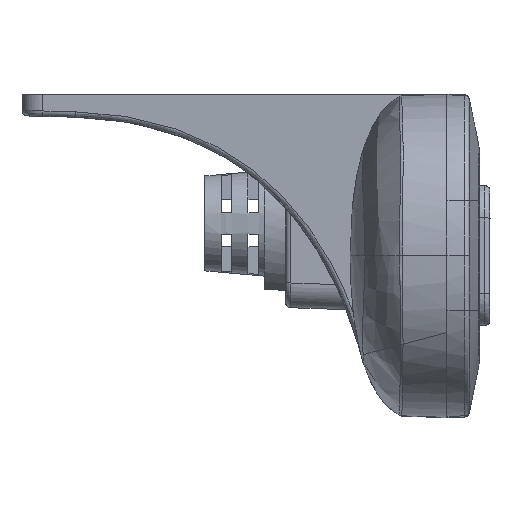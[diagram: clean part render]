
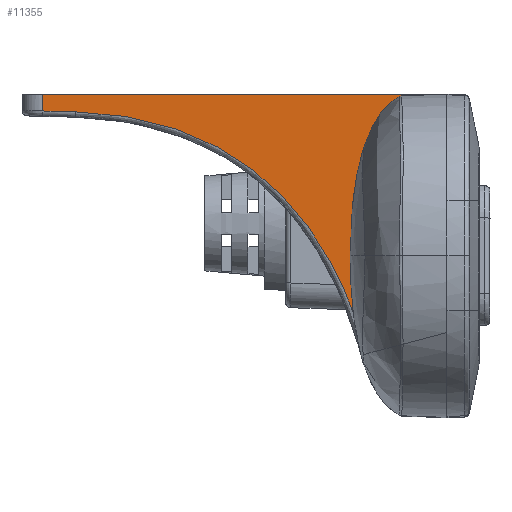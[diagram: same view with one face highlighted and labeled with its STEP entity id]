
A CAD part, left-side view. The second image highlights one B-rep face of the part: STEP entity #11355.
In plain terms, the highlighted planar face has unit normal (-0.999, 0.035, 0).
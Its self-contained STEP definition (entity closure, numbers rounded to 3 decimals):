
#181=(
BOUNDED_CURVE()
B_SPLINE_CURVE(3,(#20575,#20576,#20577,#20578),.UNSPECIFIED.,.F.,.F.)
B_SPLINE_CURVE_WITH_KNOTS((4,4),(0.,1.),.UNSPECIFIED.)
CURVE()
GEOMETRIC_REPRESENTATION_ITEM()
RATIONAL_B_SPLINE_CURVE((1.,0.983,0.983,1.))
REPRESENTATION_ITEM('')
);
#930=LINE('',#19807,#1398);
#937=LINE('',#19884,#1405);
#957=LINE('',#20513,#1425);
#1398=VECTOR('',#13663,1000.);
#1405=VECTOR('',#13674,1000.);
#1425=VECTOR('',#13720,1000.);
#1665=PLANE('',#12079);
#3578=ORIENTED_EDGE('',*,*,#5411,.F.);
#3579=ORIENTED_EDGE('',*,*,#5397,.F.);
#3580=ORIENTED_EDGE('',*,*,#5463,.F.);
#3581=ORIENTED_EDGE('',*,*,#5464,.T.);
#3582=ORIENTED_EDGE('',*,*,#5465,.T.);
#3583=ORIENTED_EDGE('',*,*,#5466,.T.);
#3584=ORIENTED_EDGE('',*,*,#5467,.T.);
#3585=ORIENTED_EDGE('',*,*,#5468,.T.);
#5397=EDGE_CURVE('',#6473,#6434,#930,.T.);
#5411=EDGE_CURVE('',#6434,#6486,#937,.T.);
#5463=EDGE_CURVE('',#6517,#6473,#957,.T.);
#5464=EDGE_CURVE('',#6517,#6518,#7137,.T.);
#5465=EDGE_CURVE('',#6518,#6519,#7138,.T.);
#5466=EDGE_CURVE('',#6519,#6520,#7139,.T.);
#5467=EDGE_CURVE('',#6520,#6521,#7140,.T.);
#5468=EDGE_CURVE('',#6521,#6486,#181,.T.);
#6434=VERTEX_POINT('',#19417);
#6473=VERTEX_POINT('',#19806);
#6486=VERTEX_POINT('',#19885);
#6517=VERTEX_POINT('',#20512);
#6518=VERTEX_POINT('',#20519);
#6519=VERTEX_POINT('',#20545);
#6520=VERTEX_POINT('',#20550);
#6521=VERTEX_POINT('',#20574);
#7137=B_SPLINE_CURVE_WITH_KNOTS('',3,(#20515,#20516,#20517,#20518),
 .UNSPECIFIED.,.F.,.F.,(4,4),(0.,1.),.UNSPECIFIED.);
#7138=B_SPLINE_CURVE_WITH_KNOTS('',3,(#20520,#20521,#20522,#20523,#20524,
#20525,#20526,#20527,#20528,#20529,#20530,#20531,#20532,#20533,#20534,#20535,
#20536,#20537,#20538,#20539,#20540,#20541,#20542,#20543,#20544),
 .UNSPECIFIED.,.F.,.F.,(4,1,1,1,1,1,1,1,1,1,1,1,1,1,1,1,1,1,1,1,1,1,4),
(0.,0.063,0.094,0.125,0.156,0.188,0.25,0.313,0.375,0.438,0.5,0.563,
0.625,0.688,0.719,0.75,0.781,0.813,0.844,0.875,0.906,0.938,1.),
 .UNSPECIFIED.);
#7139=B_SPLINE_CURVE_WITH_KNOTS('',3,(#20546,#20547,#20548,#20549),
 .UNSPECIFIED.,.F.,.F.,(4,4),(0.,1.),.UNSPECIFIED.);
#7140=B_SPLINE_CURVE_WITH_KNOTS('',3,(#20551,#20552,#20553,#20554,#20555,
#20556,#20557,#20558,#20559,#20560,#20561,#20562,#20563,#20564,#20565,#20566,
#20567,#20568,#20569,#20570,#20571,#20572,#20573),.UNSPECIFIED.,.F.,.F.,
(4,1,1,1,1,1,1,1,1,1,1,1,1,1,1,1,1,1,1,1,4),(0.,0.125,0.25,0.313,0.375,
0.406,0.438,0.469,0.484,0.492,0.5,0.508,0.516,0.531,
0.563,0.594,0.625,0.688,0.75,0.875,1.),.UNSPECIFIED.);
#7766=EDGE_LOOP('',(#3578,#3579,#3580,#3581,#3582,#3583,#3584,#3585));
#8342=FACE_BOUND('',#7766,.T.);
#11355=ADVANCED_FACE('',(#8342),#1665,.T.);
#12079=AXIS2_PLACEMENT_3D('',#20514,#13721,#13722);
#13663=DIRECTION('',(-0.035,-0.999,0.));
#13674=DIRECTION('',(0.035,0.999,-0.035));
#13720=DIRECTION('',(0.,0.,1.));
#13721=DIRECTION('',(-0.999,0.035,0.));
#13722=DIRECTION('',(0.,0.,-1.));
#19417=CARTESIAN_POINT('',(-41.432,0.,0.));
#19806=CARTESIAN_POINT('',(-40.12,37.57,0.));
#19807=CARTESIAN_POINT('',(-40.12,37.57,0.));
#19884=CARTESIAN_POINT('',(-41.432,0.,0.));
#19885=CARTESIAN_POINT('',(-41.284,4.224,-0.148));
#20512=CARTESIAN_POINT('',(-40.12,37.57,-1.551));
#20513=CARTESIAN_POINT('',(-40.12,37.57,-1.551));
#20514=CARTESIAN_POINT('',(-40.78,18.672,-10.189));
#20515=CARTESIAN_POINT('',(-40.12,37.57,-1.551));
#20516=CARTESIAN_POINT('',(-40.155,36.548,-1.578));
#20517=CARTESIAN_POINT('',(-40.191,35.526,-1.604));
#20518=CARTESIAN_POINT('',(-40.227,34.504,-1.631));
#20519=CARTESIAN_POINT('',(-40.227,34.504,-1.631));
#20520=CARTESIAN_POINT('',(-40.227,34.504,-1.631));
#20521=CARTESIAN_POINT('',(-40.252,33.782,-1.65));
#20522=CARTESIAN_POINT('',(-40.29,32.701,-1.71));
#20523=CARTESIAN_POINT('',(-40.339,31.292,-1.853));
#20524=CARTESIAN_POINT('',(-40.374,30.29,-1.988));
#20525=CARTESIAN_POINT('',(-40.412,29.208,-2.17));
#20526=CARTESIAN_POINT('',(-40.46,27.827,-2.452));
#20527=CARTESIAN_POINT('',(-40.518,26.157,-2.888));
#20528=CARTESIAN_POINT('',(-40.59,24.113,-3.592));
#20529=CARTESIAN_POINT('',(-40.657,22.193,-4.435));
#20530=CARTESIAN_POINT('',(-40.723,20.296,-5.46));
#20531=CARTESIAN_POINT('',(-40.784,18.537,-6.621));
#20532=CARTESIAN_POINT('',(-40.842,16.888,-7.926));
#20533=CARTESIAN_POINT('',(-40.897,15.316,-9.409));
#20534=CARTESIAN_POINT('',(-40.938,14.142,-10.714));
#20535=CARTESIAN_POINT('',(-40.969,13.26,-11.821));
#20536=CARTESIAN_POINT('',(-40.991,12.613,-12.701));
#20537=CARTESIAN_POINT('',(-41.011,12.046,-13.535));
#20538=CARTESIAN_POINT('',(-41.031,11.482,-14.434));
#20539=CARTESIAN_POINT('',(-41.049,10.947,-15.357));
#20540=CARTESIAN_POINT('',(-41.068,10.414,-16.355));
#20541=CARTESIAN_POINT('',(-41.084,9.965,-17.265));
#20542=CARTESIAN_POINT('',(-41.105,9.371,-18.57));
#20543=CARTESIAN_POINT('',(-41.119,8.966,-19.578));
#20544=CARTESIAN_POINT('',(-41.127,8.715,-20.257));
#20545=CARTESIAN_POINT('',(-41.127,8.715,-20.257));
#20546=CARTESIAN_POINT('',(-41.127,8.715,-20.257));
#20547=CARTESIAN_POINT('',(-41.121,8.905,-18.627));
#20548=CARTESIAN_POINT('',(-41.117,9.,-16.875));
#20549=CARTESIAN_POINT('',(-41.117,9.,-15.002));
#20550=CARTESIAN_POINT('',(-41.117,9.,-15.002));
#20551=CARTESIAN_POINT('',(-41.117,9.,-15.));
#20552=CARTESIAN_POINT('',(-41.117,9.,-14.255));
#20553=CARTESIAN_POINT('',(-41.118,8.971,-12.81));
#20554=CARTESIAN_POINT('',(-41.122,8.863,-11.12));
#20555=CARTESIAN_POINT('',(-41.127,8.733,-9.836));
#20556=CARTESIAN_POINT('',(-41.13,8.634,-9.063));
#20557=CARTESIAN_POINT('',(-41.133,8.544,-8.461));
#20558=CARTESIAN_POINT('',(-41.136,8.472,-8.019));
#20559=CARTESIAN_POINT('',(-41.138,8.406,-7.655));
#20560=CARTESIAN_POINT('',(-41.14,8.359,-7.41));
#20561=CARTESIAN_POINT('',(-41.141,8.329,-7.261));
#20562=CARTESIAN_POINT('',(-41.141,8.313,-7.18));
#20563=CARTESIAN_POINT('',(-41.143,8.272,-6.985));
#20564=CARTESIAN_POINT('',(-41.145,8.225,-6.768));
#20565=CARTESIAN_POINT('',(-41.148,8.137,-6.377));
#20566=CARTESIAN_POINT('',(-41.152,8.004,-5.848));
#20567=CARTESIAN_POINT('',(-41.158,7.832,-5.24));
#20568=CARTESIAN_POINT('',(-41.167,7.585,-4.473));
#20569=CARTESIAN_POINT('',(-41.179,7.246,-3.591));
#20570=CARTESIAN_POINT('',(-41.2,6.635,-2.349));
#20571=CARTESIAN_POINT('',(-41.231,5.746,-1.109));
#20572=CARTESIAN_POINT('',(-41.261,4.9,-0.452));
#20573=CARTESIAN_POINT('',(-41.277,4.443,-0.207));
#20574=CARTESIAN_POINT('',(-41.277,4.443,-0.207));
#20575=CARTESIAN_POINT('',(-41.277,4.443,-0.207));
#20576=CARTESIAN_POINT('',(-41.279,4.375,-0.17));
#20577=CARTESIAN_POINT('',(-41.282,4.301,-0.15));
#20578=CARTESIAN_POINT('',(-41.284,4.224,-0.148));
